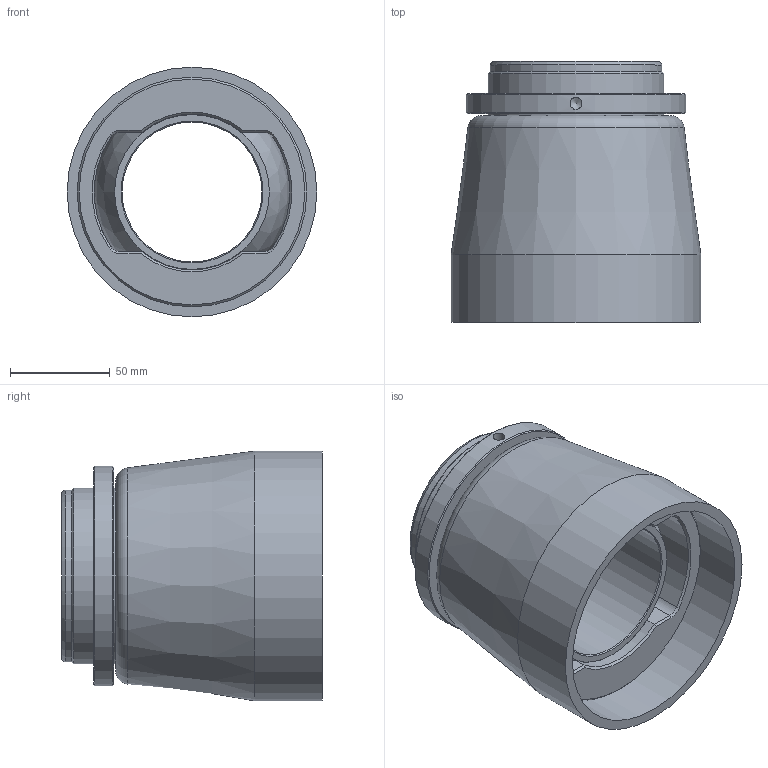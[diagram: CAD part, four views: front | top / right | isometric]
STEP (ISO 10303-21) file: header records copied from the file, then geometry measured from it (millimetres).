
FILE_DESCRIPTION(('STEP AP214'),'1');
FILE_NAME('Z:/J/Jp3/Palier/Palier-type1/3D TopSolid 2011/Serie 10.xx.xx/10.14.xx/10.14.07.step','2012-02-23T13:28:10',(' '),(' '),'Spatial InterOp 3D',' ',' ');
FILE_SCHEMA(('automotive_design'));
Length unit declared in the file: metre
Products named in the file (4): rotule 07; boitier 07; ecrou; housing
Bounding box: 125 x 130.5 x 125 mm (x, y, z)
Volume: 618803.4 mm3; surface area: 196674.1 mm2
Topology: 4 solids, 4 shells, 67 faces, 142 edges, 85 vertices
Faces by surface type: cylinder 22, cone 21, plane 19, torus 3, sphere 2
Full cylindrical faces by diameter (mm): 6 x2, 70 x1, 78 x1, 80 x1, 86 x1, 88 x4, 110 x1, 115 x2, 125 x1
Entity records: 2351 total; most frequent: CARTESIAN_POINT 443, DIRECTION 298, ORIENTED_EDGE 204, AXIS2_PLACEMENT_3D 135, EDGE_LOOP 110, EDGE_CURVE 102, FACE_OUTER_BOUND 86, VERTEX_POINT 80
